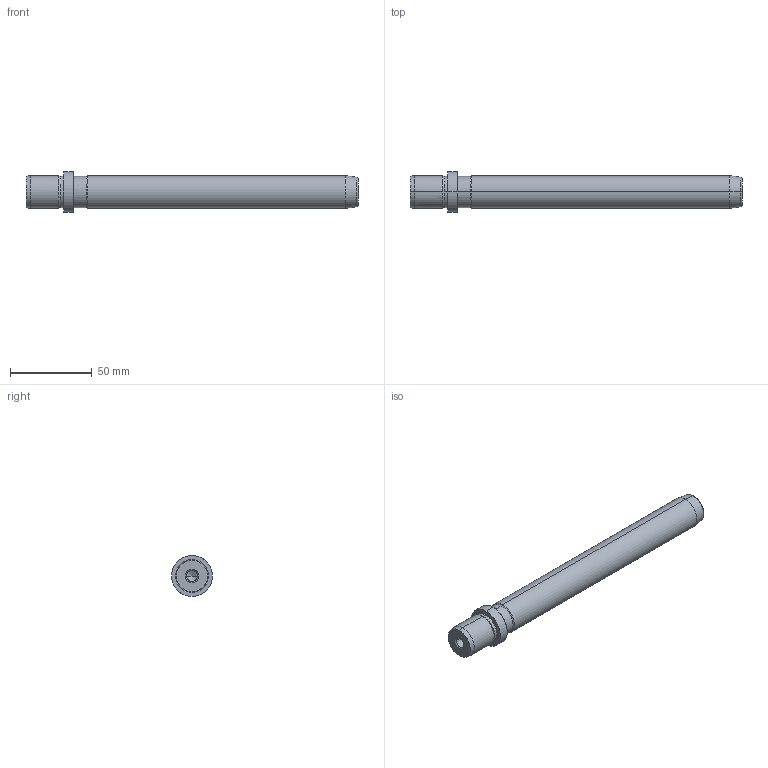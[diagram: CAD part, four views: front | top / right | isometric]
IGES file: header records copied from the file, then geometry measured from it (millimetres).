
Start section: START RECORD GO HERE.
Global section: file name: 718-20x180.igs; native system: DASSAULT SYSTEMES CATIA V5 R20 - www.3ds.com; preprocessor: CATIA Version 5 Release 20 ; author: Utente; organization: NB04-ASUS; date: 20210102.162339; units: millimetre
Bounding box: 203 x 25 x 25 mm (x, y, z)
Surface area: 14748.3 mm2 (no closed solid volume)
Topology: 0 solids, 0 shells, 36 faces, 196 edges, 192 vertices
Faces by surface type: revolution 32, plane 4
